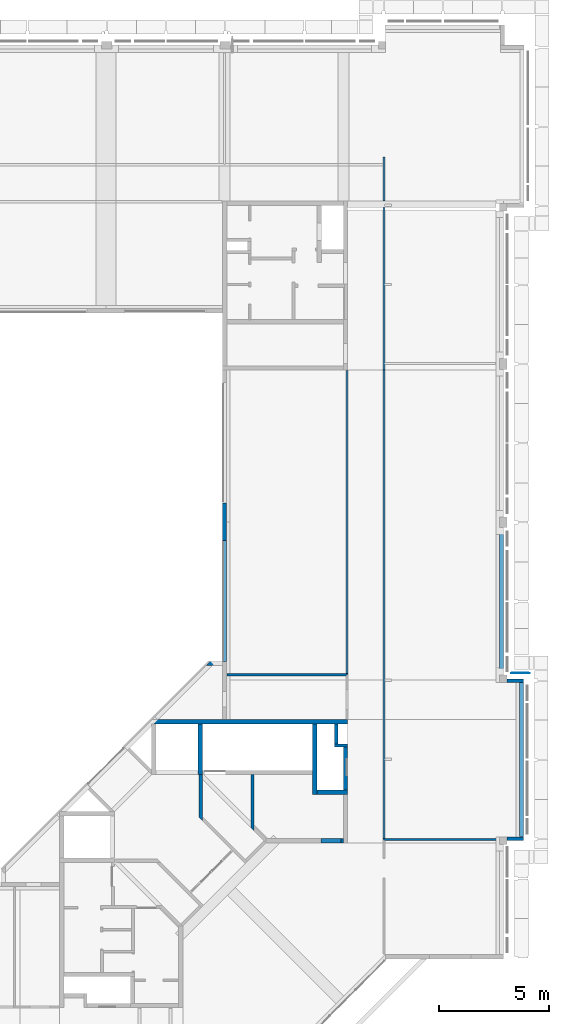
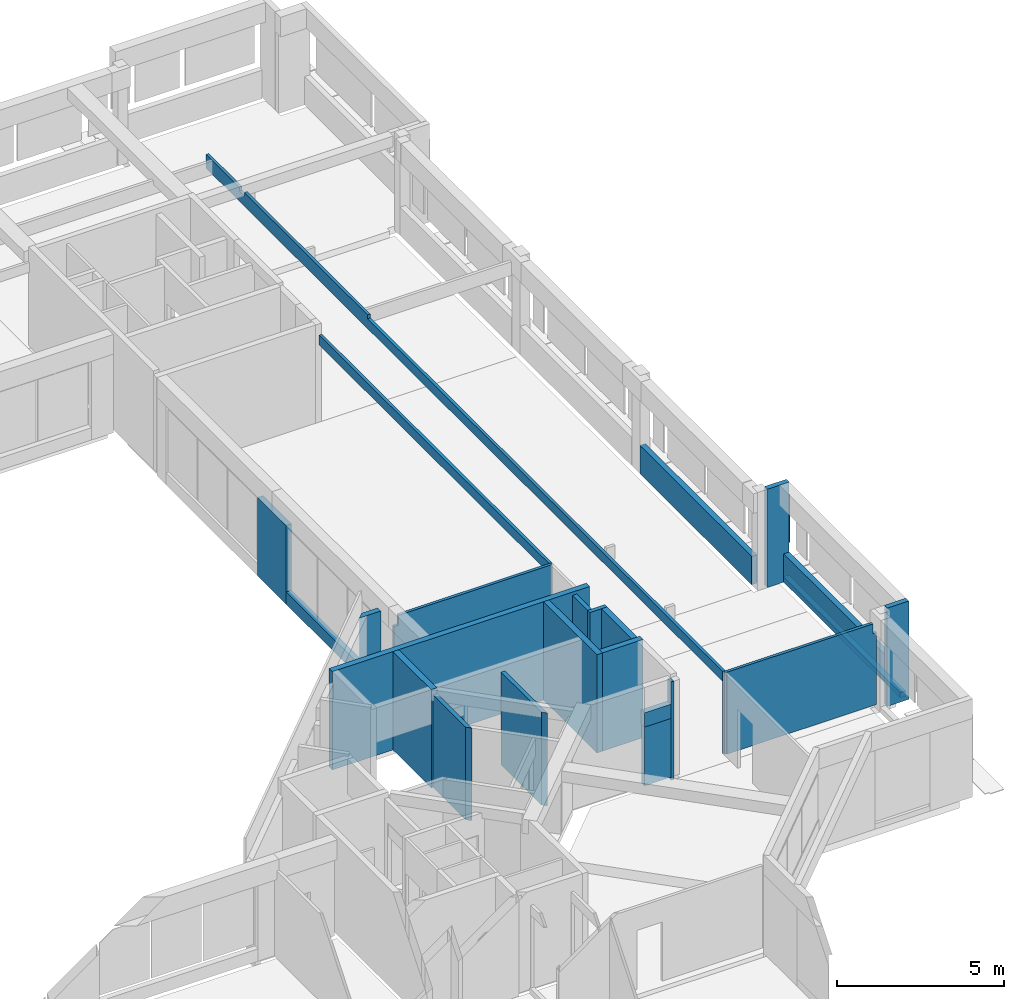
# One storey, part 15 of 26: 25 walls.
"""IFC4X3_ADD2 building model written with IfcOpenShell, lengths in millimetres."""

from ifc_helpers import new_model, si_unit, direction, frame, frame_2d, origin_with_axes, origin_2d_with_axis, place, context, subcontext, project, spatial, polyline, rectangle, outline, extrude, source, transform, mapped, material, type_object, type_shapes, element, save


model = new_model("IFC4X3_ADD2")

# Units and contexts
model_context = context("Model", 3, precision=1e-05, world=origin_with_axes(), true_north=direction((0.0, 1.0)))
body_context = subcontext(model_context, "Body", "Model", "MODEL_VIEW")
ifc_project = project(units=[si_unit("LENGTHUNIT", "METRE", prefix="MILLI"), si_unit("AREAUNIT", "SQUARE_METRE"), si_unit("VOLUMEUNIT", "CUBIC_METRE"), si_unit("PLANEANGLEUNIT", "RADIAN"), si_unit("TIMEUNIT", "SECOND"), si_unit("MASSUNIT", "GRAM")], contexts=[model_context])

# Site, building, storey
site_placement = place(None, origin_with_axes())
site = spatial("IfcSite", under=ifc_project, at=site_placement, Name="Site", CompositionType="ELEMENT")
building_placement = place(site_placement, origin_with_axes())
building = spatial("IfcBuilding", under=site, at=building_placement, Name="IFC Building Story")
storey_placement = place(building_placement, frame((0.0, 0.0, 7200.0), z_axis=(0.0, 0.0, 1.0), x_axis=(1.0, 0.0, 0.0)))
storey = spatial("IfcBuildingStorey", under=building, at=storey_placement, Name="020", Elevation=7200.0)

# Walls
ifc_material_1 = material(Name="BB_Beton_Bestaand")
wall_type_1 = type_object("IfcWallType", Name="BB_Beton_Bestaand 200", PredefinedType="NOTDEFINED", material=ifc_material_1)
wall_1_placement = place(storey_placement, origin_with_axes())
element("IfcWall", 1, at=wall_1_placement, inside=storey, type_object=wall_type_1, Name="Basic Wall:BB_XX_Wand uit beton, 200 mm", ObjectType="Basic Wall:BB_XX_Wand uit beton, 200 mm", PredefinedType="SOLIDWALL", context=body_context, shape_type="SweptSolid", body=[
    extrude(rectangle(XDim=8915.00000000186, YDim=200.0, at=origin_2d_with_axis()), frame((-11457.49999999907, 20000.0, -80.0), z_axis=(0.0, 0.0, 1.0), x_axis=(1.0, 0.0, 0.0)), (0.0, 0.0, 1.0), 3600.0),
])
wall_2_placement = place(storey_placement, origin_with_axes())
element("IfcWall", 2, at=wall_2_placement, inside=storey, type_object=wall_type_1, Name="Basic Wall:BB_XX_Wand uit beton, 200 mm", ObjectType="Basic Wall:BB_XX_Wand uit beton, 200 mm", PredefinedType="SOLIDWALL", context=body_context, shape_type="SweptSolid", body=[
    extrude(rectangle(XDim=3199.999999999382, YDim=200.0, at=frame_2d((0.0, 0.0), x_axis=(0.0, 1.0))), frame((-8500.0, 18300.00000000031, -80.0), z_axis=(0.0, 0.0, 1.0), x_axis=(1.0, 0.0, 0.0)), (0.0, 0.0, 1.0), 3600.0),
])
wall_3_placement = place(storey_placement, origin_with_axes())
element("IfcWall", 3, at=wall_3_placement, inside=storey, type_object=wall_type_1, Name="Basic Wall:BB_XX_Wand uit beton, 200 mm", ObjectType="Basic Wall:BB_XX_Wand uit beton, 200 mm", PredefinedType="SOLIDWALL", context=body_context, shape_type="SweptSolid", body=[
    extrude(rectangle(XDim=1399.999999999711, YDim=200.0, at=origin_2d_with_axis()), frame((-7700.000000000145, 16800.0, -80.0), z_axis=(0.0, 0.0, 1.0), x_axis=(1.0, 0.0, 0.0)), (0.0, 0.0, 1.0), 3600.0),
])
wall_4_placement = place(storey_placement, origin_with_axes())
element("IfcWall", 4, at=wall_4_placement, inside=storey, type_object=wall_type_1, Name="Basic Wall:BB_XX_Wand uit beton, 200 mm", ObjectType="Basic Wall:BB_XX_Wand uit beton, 200 mm", PredefinedType="SOLIDWALL", context=body_context, shape_type="SweptSolid", body=[
    extrude(rectangle(XDim=2299.999999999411, YDim=199.9999999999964, at=frame_2d((0.0, 0.0), x_axis=(0.0, 1.0))), frame((-13715.0, 18749.99999999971, -80.0), z_axis=(0.0, 0.0, 1.0), x_axis=(1.0, 0.0, 0.0)), (0.0, 0.0, 1.0), 3600.0),
])
wall_type_2 = type_object("IfcWallType", Name="BB_Beton_Bestaand 190", PredefinedType="NOTDEFINED", material=ifc_material_1)
wall_5_placement = place(storey_placement, origin_with_axes())
element("IfcWall", 5, at=wall_5_placement, inside=storey, type_object=wall_type_2, Name="Basic Wall:BB_XX_Wand uit beton, 190 mm", ObjectType="Basic Wall:BB_XX_Wand uit beton, 190 mm", PredefinedType="SOLIDWALL", context=body_context, shape_type="SweptSolid", body=[
    extrude(rectangle(XDim=7010.0000000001, YDim=190.0, at=frame_2d((0.0, 0.0), x_axis=(0.0, 1.0))), frame((900.0, 18299.99999999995, -200.0), z_axis=(0.0, 0.0, 1.0), x_axis=(1.0, 0.0, 0.0)), (0.0, 0.0, 1.0), 194.999999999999),
])
wall_6_placement = place(storey_placement, origin_with_axes())
element("IfcWall", 6, at=wall_6_placement, inside=storey, type_object=wall_type_2, Name="Basic Wall:BB_XX_Wand uit beton, 190 mm", ObjectType="Basic Wall:BB_XX_Wand uit beton, 190 mm", PredefinedType="SOLIDWALL", context=body_context, shape_type="SweptSolid", body=[
    extrude(rectangle(XDim=6709.999999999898, YDim=190.0, at=frame_2d((0.0, 0.0), x_axis=(0.0, 1.0))), frame((0.0, 25500.00000000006, -200.0), z_axis=(0.0, 0.0, 1.0), x_axis=(1.0, 0.0, 0.0)), (0.0, 0.0, 1.0), 1040.0),
])
wall_7_placement = place(storey_placement, origin_with_axes())
element("IfcWall", 7, at=wall_7_placement, inside=storey, type_object=wall_type_2, Name="Basic Wall:BB_XX_Wand uit beton, 190 mm", ObjectType="Basic Wall:BB_XX_Wand uit beton, 190 mm", PredefinedType="SOLIDWALL", context=body_context, shape_type="SweptSolid", body=[
    extrude(rectangle(XDim=1709.999999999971, YDim=190.0, at=frame_2d((0.0, 0.0), x_axis=(0.0, 1.0))), frame((-12600.0040658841, 29100.00000000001, -200.0), z_axis=(0.0, 0.0, 1.0), x_axis=(1.0, 0.0, 0.0)), (0.0, 0.0, 1.0), 2880.0),
])
wall_8_placement = place(storey_placement, origin_with_axes())
element("IfcWall", 8, at=wall_8_placement, inside=storey, type_object=wall_type_2, Name="Basic Wall:BB_XX_Wand uit beton, 190 mm", ObjectType="Basic Wall:BB_XX_Wand uit beton, 190 mm", PredefinedType="SOLIDWALL", context=body_context, shape_type="SweptSolid", body=[
    extrude(rectangle(XDim=5490.000000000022, YDim=190.0, at=frame_2d((0.0, 0.0), x_axis=(0.0, 1.0))), frame((-12600.0040658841, 25500.00000000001, -200.0), z_axis=(0.0, 0.0, 1.0), x_axis=(1.0, 0.0, 0.0)), (0.0, 0.0, 1.0), 449.999999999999),
])
wall_9_placement = place(storey_placement, origin_with_axes())
element("IfcWall", 9, at=wall_9_placement, inside=storey, type_object=wall_type_2, Name="Basic Wall:BB_XX_Wand uit beton, 190 mm", ObjectType="Basic Wall:BB_XX_Wand uit beton, 190 mm", PredefinedType="SOLIDWALL", context=body_context, shape_type="SweptSolid", body=[
    extrude(rectangle(XDim=7010.0000000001, YDim=190.0, at=frame_2d((0.0, 0.0), x_axis=(0.0, 1.0))), frame((900.0, 18299.99999999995, -200.0), z_axis=(0.0, 0.0, 1.0), x_axis=(1.0, 0.0, 0.0)), (0.0, 0.0, 1.0), 1040.0),
])
wall_type_3 = type_object("IfcWallType", Name="BB_Beton_Bestaand 170", PredefinedType="NOTDEFINED", material=ifc_material_1)
wall_10_placement = place(storey_placement, origin_with_axes())
element("IfcWall", 10, at=wall_10_placement, inside=storey, type_object=wall_type_3, Name="Basic Wall:BB_XX_Wand uit beton, 170 mm", ObjectType="Basic Wall:BB_XX_Wand uit beton, 170 mm", PredefinedType="SOLIDWALL", context=body_context, shape_type="SweptSolid", body=[
    extrude(rectangle(XDim=749.999999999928, YDim=170.0, at=origin_2d_with_axis()), frame((620.0000000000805, 14690.0, -200.0), z_axis=(0.0, 0.0, 1.0), x_axis=(1.0, 0.0, 0.0)), (0.0, 0.0, 1.0), 3600.0),
])
wall_11_placement = place(storey_placement, origin_with_axes())
element("IfcWall", 11, at=wall_11_placement, inside=storey, type_object=wall_type_3, Name="Basic Wall:BB_XX_Wand uit beton, 170 mm", ObjectType="Basic Wall:BB_XX_Wand uit beton, 170 mm", PredefinedType="SOLIDWALL", context=body_context, shape_type="SweptSolid", body=[
    extrude(rectangle(XDim=750.0000000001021, YDim=169.9999999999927, at=origin_2d_with_axis()), frame((620.0000000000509, 21870.0, -200.0), z_axis=(0.0, 0.0, 1.0), x_axis=(1.0, 0.0, 0.0)), (0.0, 0.0, 1.0), 3600.0),
])
ifc_material_2 = material(Name="BB_Metselwerk_Bestaand")
wall_type_4 = type_object("IfcWallType", Name="BB_Metselwerk_Bestaand 140", PredefinedType="NOTDEFINED", material=ifc_material_2)
wall_12_placement = place(storey_placement, origin_with_axes())
element("IfcWall", 12, at=wall_12_placement, inside=storey, type_object=wall_type_4, Name="Basic Wall:BB_XX_Wand uit metselwerk, 140 mm", ObjectType="Basic Wall:BB_XX_Wand uit metselwerk, 140 mm", PredefinedType="SOLIDWALL", context=body_context, shape_type="SweptSolid", body=[
    extrude(rectangle(XDim=589.9999999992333, YDim=140.0, at=origin_2d_with_axis()), frame((-7294.999999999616, 18930.0, -200.0), z_axis=(0.0, 0.0, 1.0), x_axis=(1.0, 0.0, 0.0)), (0.0, 0.0, 1.0), 3600.0),
])
wall_13_placement = place(storey_placement, origin_with_axes())
element("IfcWall", 13, at=wall_13_placement, inside=storey, type_object=wall_type_4, Name="Basic Wall:BB_XX_Wand uit metselwerk, 140 mm", ObjectType="Basic Wall:BB_XX_Wand uit metselwerk, 140 mm", PredefinedType="SOLIDWALL", context=body_context, shape_type="SweptSolid", body=[
    extrude(rectangle(XDim=899.9999999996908, YDim=140.0, at=frame_2d((0.0, 0.0), x_axis=(0.0, 1.0))), frame((-7520.0, 19449.99999999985, -200.0), z_axis=(0.0, 0.0, 1.0), x_axis=(1.0, 0.0, 0.0)), (0.0, 0.0, 1.0), 3600.0),
])
wall_14_placement = place(storey_placement, origin_with_axes())
element("IfcWall", 14, at=wall_14_placement, inside=storey, type_object=wall_type_4, Name="Basic Wall:BB_XX_Wand uit metselwerk, 140 mm", ObjectType="Basic Wall:BB_XX_Wand uit metselwerk, 140 mm", PredefinedType="SOLIDWALL", context=body_context, shape_type="SweptSolid", body=[
    extrude(outline(polyline([(70.00000000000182, 1243.002525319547), (69.99999999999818, -1313.002525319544), (-70.00000000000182, -1173.002525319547), (-69.99999999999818, 1243.002525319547), (70.00000000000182, 1243.002525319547)])), frame((-11330.0, 16356.99747467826, -80.0), z_axis=(0.0, 0.0, 1.0), x_axis=(1.0, 0.0, 0.0)), (0.0, 0.0, 1.0), 3400.0),
])
wall_type_5 = type_object("IfcWallType", Name="BB_Metselwerk_Bestaand 190", PredefinedType="NOTDEFINED", material=ifc_material_2)
wall_15_placement = place(storey_placement, origin_with_axes())
element("IfcWall", 15, at=wall_15_placement, inside=storey, type_object=wall_type_5, Name="Basic Wall:BB_XX_Wand uit metselwerk, 190 mm", ObjectType="Basic Wall:BB_XX_Wand uit metselwerk, 190 mm", PredefinedType="SOLIDWALL", context=body_context, shape_type="SweptSolid", body=[
    extrude(rectangle(XDim=1959.99999999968, YDim=190.0, at=frame_2d((0.0, 0.0), x_axis=(0.0, 1.0))), frame((-7095.0, 17879.99999999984, -200.0), z_axis=(0.0, 0.0, 1.0), x_axis=(1.0, 0.0, 0.0)), (0.0, 0.0, 1.0), 3600.0),
])
ifc_material_3 = material(Name="BB_Metselwerk_Betonsteen")
wall_type_6 = type_object("IfcWallType", Name="BB_Metselwerk_Betonsteen 190", PredefinedType="NOTDEFINED", material=ifc_material_3)
wall_16_placement = place(storey_placement, origin_with_axes())
element("IfcWall", 16, at=wall_16_placement, inside=storey, type_object=wall_type_6, Name="Basic Wall:BB_03.09.24#05_Wand uit metselwerk_EI60, 190 mm", ObjectType="Basic Wall:BB_03.09.24#05_Wand uit metselwerk_EI60, 190 mm", PredefinedType="SOLIDWALL", context=body_context, shape_type="SweptSolid", body=[
    extrude(rectangle(XDim=920.0, YDim=190.0, at=origin_2d_with_axis()), frame((-7760.0, 14595.0, -80.0), z_axis=(0.0, 0.0, 1.0), x_axis=(1.0, 0.0, 0.0)), (0.0, 0.0, 1.0), 2150.0),
])
wall_17_placement = place(storey_placement, origin_with_axes())
element("IfcWall", 17, at=wall_17_placement, inside=storey, type_object=wall_type_6, Name="Basic Wall:BB_03.09.24#03_Wand uit metselwerk, 190 mm", ObjectType="Basic Wall:BB_03.09.24#03_Wand uit metselwerk, 190 mm", PredefinedType="SOLIDWALL", context=body_context, shape_type="SweptSolid", body=[
    extrude(outline(polyline([(-229.8221358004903, 95.0), (324.8221358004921, 95.0), (324.8221358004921, -95.0), (-419.8221358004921, -95.0), (-229.8221358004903, 95.0)])), frame((-13019.82620168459, 22660.0, -200.0), z_axis=(0.0, 0.0, 1.0), x_axis=(1.0, 0.0, 0.0)), (0.0, 0.0, 1.0), 3200.0),
])
wall_type_7 = type_object("IfcWallType", Name="Basic Wall_BB_10.01.41#21_Gipskartonwand_EI60_43dB_MS100 _ 25.50.25_ 100 mm51", PredefinedType="NOTDEFINED")
shared_shape_1 = source(origin_with_axes(), body_context, "Body", "SweptSolid", [
    extrude(outline(polyline([(3625.002710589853, 2013.333333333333), (3625.002710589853, -1186.666666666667), (-1735.001355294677, -1186.666666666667), (-1735.001355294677, -826.6666666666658), (-1890.001355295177, -826.6666666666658), (-1890.001355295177, 2013.333333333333), (3625.002710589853, 2013.333333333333)])), frame((1890.001355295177, 37.49999999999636, 2013.333333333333), z_axis=(0.0, 1.0, 0.0), x_axis=(1.0, 0.0, 0.0)), (0.0, 0.0, 1.0), 12.5),
    extrude(outline(polyline([(-1885.83468862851, 2013.333333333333), (3616.66937725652, 2013.333333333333), (3616.66937725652, -1186.666666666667), (-1730.83468862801, -1186.666666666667), (-1730.83468862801, -826.6666666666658), (-1885.83468862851, -826.6666666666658), (-1885.83468862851, 2013.333333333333)])), frame((1885.83468862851, 25.0, 2013.333333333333), z_axis=(0.0, 1.0, 0.0), x_axis=(1.0, 0.0, 0.0)), (0.0, 0.0, 1.0), 12.5),
    extrude(outline(polyline([(-1878.33468862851, 2013.333333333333), (3611.66937725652, 2013.333333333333), (3611.66937725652, -1186.666666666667), (-1733.33468862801, -1186.666666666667), (-1733.33468862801, -826.6666666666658), (-1878.33468862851, -826.6666666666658), (-1878.33468862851, 2013.333333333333)])), frame((1878.33468862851, -25.0, 2013.333333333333), z_axis=(0.0, 1.0, 0.0), x_axis=(1.0, 0.0, 0.0)), (0.0, 0.0, 1.0), 49.99999999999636),
    extrude(outline(polyline([(-1865.001355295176, 2013.333333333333), (3575.002710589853, 2013.333333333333), (3575.002710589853, -1186.666666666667), (-1710.001355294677, -1186.666666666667), (-1710.001355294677, -826.6666666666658), (-1865.001355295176, -826.6666666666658), (-1865.001355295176, 2013.333333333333)])), frame((1865.001355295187, -37.5, 2013.333333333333), z_axis=(0.0, 1.0, 0.0), x_axis=(1.0, 0.0, 0.0)), (0.0, 0.0, 1.0), 12.5),
    extrude(outline(polyline([(-1860.83468862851, 2013.333333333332), (3566.66937725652, 2013.333333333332), (3566.66937725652, -1186.666666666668), (-1705.834688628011, -1186.666666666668), (-1705.834688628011, -826.6666666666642), (-1860.83468862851, -826.6666666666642), (-1860.83468862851, 2013.333333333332)])), frame((1860.834688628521, -50.0, 2013.333333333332), z_axis=(0.0, 1.0, 0.0), x_axis=(1.0, 0.0, 0.0)), (0.0, 0.0, 1.0), 12.49999999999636),
])
type_shapes(wall_type_7, [shared_shape_1])
wall_18_placement = place(storey_placement, frame((-12500.0040658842, 22150.0, -200.0), z_axis=(0.0, 0.0, 1.0), x_axis=(1.0, 0.0, 0.0)))
element("IfcWall", 18, at=wall_18_placement, inside=storey, type_object=wall_type_7, Name="Basic Wall:BB_10.01.41#21_Gipskartonwand_EI60_43dB_MS100 / 25.50.25, 100 mm", ObjectType="Basic Wall:BB_10.01.41#21_Gipskartonwand_EI60_43dB_MS100 / 25.50.25, 100 mm", PredefinedType="PARTITIONING", context=body_context, shape_type="MappedRepresentation", body=[
    mapped(shared_shape_1, transform((0.0, 0.0, 0.0))),
])
wall_type_8 = type_object("IfcWallType", Name="Basic Wall_BB_10.01.41#01_Gipskartonwand_MS100 _ 25.50.25_ 100 mm85", PredefinedType="NOTDEFINED")
shared_shape_2 = source(origin_with_axes(), body_context, "Body", "SweptSolid", [
    extrude(outline(polyline([(-21993.9999999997, -13.99999999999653), (-21993.9999999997, 346.0000000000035), (8996.000000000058, 346.0000000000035), (8996.000000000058, -154.0000000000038), (6995.99999999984, -154.0000000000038), (6995.99999999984, -23.99999999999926), (6695.99999999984, -23.99999999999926), (6695.99999999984, -154.0000000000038), (-694.0000000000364, -154.0000000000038), (-694.0000000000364, -13.99999999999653), (-21993.9999999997, -13.99999999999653)])), frame((21994.0, 37.4999999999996, 345.9999999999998), z_axis=(0.0, 1.0, 0.0), x_axis=(1.0, 0.0, 0.0)), (0.0, 0.0, 1.0), 12.5000000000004),
    extrude(outline(polyline([(-21993.9999999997, -13.99999999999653), (-21993.9999999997, 346.0000000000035), (8996.000000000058, 346.0000000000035), (8996.000000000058, -154.0000000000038), (6995.99999999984, -154.0000000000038), (6995.99999999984, -23.99999999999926), (6695.99999999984, -23.99999999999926), (6695.99999999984, -154.0000000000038), (-694.0000000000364, -154.0000000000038), (-694.0000000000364, -13.99999999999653), (-21993.9999999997, -13.99999999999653)])), frame((21994.0, 24.9999999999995, 345.9999999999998), z_axis=(0.0, 1.0, 0.0), x_axis=(1.0, 0.0, 0.0)), (0.0, 0.0, 1.0), 12.50000000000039),
    extrude(outline(polyline([(-21993.9999999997, -13.99999999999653), (-21993.9999999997, 346.0000000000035), (8996.000000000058, 346.0000000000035), (8996.000000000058, -154.0000000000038), (6995.99999999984, -154.0000000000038), (6995.99999999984, -23.99999999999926), (6695.99999999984, -23.99999999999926), (6695.99999999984, -154.0000000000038), (-694.0000000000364, -154.0000000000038), (-694.0000000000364, -13.99999999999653), (-21993.9999999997, -13.99999999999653)])), frame((21994.0, -24.9999999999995, 345.9999999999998), z_axis=(0.0, 1.0, 0.0), x_axis=(1.0, 0.0, 0.0)), (0.0, 0.0, 1.0), 49.9999999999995),
    extrude(outline(polyline([(-21993.9999999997, -13.99999999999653), (-21993.9999999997, 346.0000000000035), (8996.000000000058, 346.0000000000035), (8996.000000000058, -154.0000000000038), (6995.99999999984, -154.0000000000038), (6995.99999999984, -23.99999999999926), (6695.99999999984, -23.99999999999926), (6695.99999999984, -154.0000000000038), (-694.0000000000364, -154.0000000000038), (-694.0000000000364, -13.99999999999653), (-21993.9999999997, -13.99999999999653)])), frame((21994.00000000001, -37.5000000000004, 345.9999999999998), z_axis=(0.0, 1.0, 0.0), x_axis=(1.0, 0.0, 0.0)), (0.0, 0.0, 1.0), 12.5000000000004),
    extrude(outline(polyline([(-21993.9999999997, -13.99999999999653), (-21993.9999999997, 346.0000000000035), (8996.000000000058, 346.0000000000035), (8996.000000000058, -154.0000000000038), (6995.99999999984, -154.0000000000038), (6995.99999999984, -23.99999999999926), (6695.99999999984, -23.99999999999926), (6695.99999999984, -154.0000000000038), (-694.0000000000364, -154.0000000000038), (-694.0000000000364, -13.99999999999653), (-21993.9999999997, -13.99999999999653)])), frame((21994.00000000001, -49.99999999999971, 345.9999999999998), z_axis=(0.0, 1.0, 0.0), x_axis=(1.0, 0.0, 0.0)), (0.0, 0.0, 1.0), 12.49999999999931),
])
type_shapes(wall_type_8, [shared_shape_2])
wall_19_placement = place(storey_placement, frame((-5350.0, 14700.0, 2640.0), z_axis=(0.0, 0.0, 1.0), x_axis=(0.0, 1.0, 0.0)))
element("IfcWall", 19, at=wall_19_placement, inside=storey, type_object=wall_type_8, Name="Basic Wall:BB_10.01.41#01_Gipskartonwand_MS100 / 25.50.25, 100 mm", ObjectType="Basic Wall:BB_10.01.41#01_Gipskartonwand_MS100 / 25.50.25, 100 mm", PredefinedType="PARTITIONING", context=body_context, shape_type="MappedRepresentation", body=[
    mapped(shared_shape_2, transform((0.0, 0.0, 0.0))),
])
wall_type_9 = type_object("IfcWallType", Name="Basic Wall_BB_10.01.41#01_Gipskartonwand_MS100 _ 25.50.25_ 100 mm111", PredefinedType="NOTDEFINED")
shared_shape_3 = source(origin_with_axes(), body_context, "Body", "SweptSolid", [
    extrude(rectangle(XDim=13785.00000000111, YDim=12.49999999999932, at=origin_2d_with_axis()), frame((6892.500000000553, 43.7500000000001, 0.0), z_axis=(0.0, 0.0, 1.0), x_axis=(1.0, 0.0, 0.0)), (0.0, 0.0, 1.0), 360.0),
    extrude(rectangle(XDim=13785.0000000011, YDim=12.5000000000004, at=origin_2d_with_axis()), frame((6892.50000000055, 31.25000000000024, 0.0), z_axis=(0.0, 0.0, 1.0), x_axis=(1.0, 0.0, 0.0)), (0.0, 0.0, 1.0), 360.0),
    extrude(rectangle(XDim=13785.0000000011, YDim=49.9999999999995, at=origin_2d_with_axis()), frame((6892.50000000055, -1.072031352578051e-12, 0.0), z_axis=(0.0, 0.0, 1.0), x_axis=(1.0, 0.0, 0.0)), (0.0, 0.0, 1.0), 360.0),
    extrude(rectangle(XDim=13785.0000000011, YDim=12.50000000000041, at=origin_2d_with_axis()), frame((6892.50000000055, -31.24999999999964, 0.0), z_axis=(0.0, 0.0, 1.0), x_axis=(1.0, 0.0, 0.0)), (0.0, 0.0, 1.0), 360.0),
    extrude(rectangle(XDim=13785.0000000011, YDim=12.50000000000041, at=origin_2d_with_axis()), frame((6892.50000000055, -43.75000000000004, 0.0), z_axis=(0.0, 0.0, 1.0), x_axis=(1.0, 0.0, 0.0)), (0.0, 0.0, 1.0), 360.0),
])
type_shapes(wall_type_9, [shared_shape_3])
wall_20_placement = place(storey_placement, frame((-7035.0, 35985.0, 2640.0), z_axis=(0.0, 0.0, 1.0), x_axis=(0.0, -1.0, 0.0)))
element("IfcWall", 20, at=wall_20_placement, inside=storey, type_object=wall_type_9, Name="Basic Wall:BB_10.01.41#01_Gipskartonwand_MS100 / 25.50.25, 100 mm", ObjectType="Basic Wall:BB_10.01.41#01_Gipskartonwand_MS100 / 25.50.25, 100 mm", PredefinedType="PARTITIONING", context=body_context, shape_type="MappedRepresentation", body=[
    mapped(shared_shape_3, transform((0.0, 0.0, 0.0))),
])
wall_type_10 = type_object("IfcWallType", Name="Basic Wall_BB_10.01.41#03_Gipskartonwand_43dB_MS100 _ 25.50.25_ 100 mm63", PredefinedType="NOTDEFINED")
shared_shape_4 = source(origin_with_axes(), body_context, "Body", "SweptSolid", [
    extrude(outline(polyline([(-3475.000000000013, -1119.999999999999), (-3475.000000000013, 1880.0), (1805.000000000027, 1880.0), (1805.000000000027, -760.0000000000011), (1669.999999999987, -760.0000000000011), (1669.999999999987, -1119.999999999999), (-3475.000000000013, -1119.999999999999)])), frame((3475.000000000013, 37.49999999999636, 1880.0), z_axis=(0.0, 1.0, 0.0), x_axis=(1.0, 0.0, 0.0)), (0.0, 0.0, 1.0), 12.49999999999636),
    extrude(outline(polyline([(-3466.666666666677, 1880.0), (1800.833333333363, 1880.0), (1800.833333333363, -760.0000000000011), (1665.833333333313, -760.0000000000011), (1665.833333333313, -1119.999999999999), (-3466.666666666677, -1119.999999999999), (-3466.666666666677, 1880.0)])), frame((3479.166666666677, 25.0, 1880.0), z_axis=(0.0, 1.0, 0.0), x_axis=(1.0, 0.0, 0.0)), (0.0, 0.0, 1.0), 12.5),
    extrude(outline(polyline([(-3461.66666666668, 1880.0), (1793.33333333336, 1880.0), (1793.33333333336, -760.0000000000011), (1668.33333333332, -760.0000000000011), (1668.33333333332, -1119.999999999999), (-3461.66666666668, -1119.999999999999), (-3461.66666666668, 1880.0)])), frame((3486.66666666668, -25.0, 1880.0), z_axis=(0.0, 1.0, 0.0), x_axis=(1.0, 0.0, 0.0)), (0.0, 0.0, 1.0), 50.00000000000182),
    extrude(outline(polyline([(-3425.000000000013, 1880.0), (1780.000000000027, 1880.0), (1780.000000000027, -760.0000000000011), (1644.999999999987, -760.0000000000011), (1644.999999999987, -1119.999999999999), (-3425.000000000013, -1119.999999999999), (-3425.000000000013, 1880.0)])), frame((3500.000000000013, -37.50000000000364, 1880.0), z_axis=(0.0, 1.0, 0.0), x_axis=(1.0, 0.0, 0.0)), (0.0, 0.0, 1.0), 12.49999999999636),
    extrude(outline(polyline([(-3416.666666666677, 1880.0), (1775.833333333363, 1880.0), (1775.833333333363, -760.0000000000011), (1640.833333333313, -760.0000000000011), (1640.833333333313, -1119.999999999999), (-3416.666666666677, -1119.999999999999), (-3416.666666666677, 1880.0)])), frame((3504.166666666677, -50.0, 1880.0), z_axis=(0.0, 1.0, 0.0), x_axis=(1.0, 0.0, 0.0)), (0.0, 0.0, 1.0), 12.5),
])
type_shapes(wall_type_10, [shared_shape_4])
wall_21_placement = place(storey_placement, frame((-5400.0, 14650.0, 0.0), z_axis=(0.0, 0.0, 1.0), x_axis=(1.0, 0.0, 0.0)))
element("IfcWall", 21, at=wall_21_placement, inside=storey, type_object=wall_type_10, Name="Basic Wall:BB_10.01.41#03_Gipskartonwand_43dB_MS100 / 25.50.25, 100 mm", ObjectType="Basic Wall:BB_10.01.41#03_Gipskartonwand_43dB_MS100 / 25.50.25, 100 mm", PredefinedType="PARTITIONING", context=body_context, shape_type="MappedRepresentation", body=[
    mapped(shared_shape_4, transform((0.0, 0.0, 0.0))),
])
wall_type_11 = type_object("IfcWallType", Name="BB_Metselwerk_Bestaand 200", PredefinedType="NOTDEFINED", material=ifc_material_2)
wall_22_placement = place(storey_placement, origin_with_axes())
element("IfcWall", 22, at=wall_22_placement, inside=storey, type_object=wall_type_11, Name="Basic Wall:BB_XX_Wand uit metselwerk, 200 mm", ObjectType="Basic Wall:BB_XX_Wand uit metselwerk, 200 mm", PredefinedType="SOLIDWALL", context=body_context, shape_type="SweptSolid", body=[
    extrude(rectangle(XDim=920.0, YDim=199.9999999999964, at=origin_2d_with_axis()), frame((-7760.0, 14600.0, 2070.0), z_axis=(0.0, 0.0, 1.0), x_axis=(1.0, 0.0, 0.0)), (0.0, 0.0, 1.0), 519.999999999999),
])
wall_type_12 = type_object("IfcWallType", Name="BB_Metselwerk_Betonsteen 140", PredefinedType="NOTDEFINED", material=ifc_material_3)
wall_23_placement = place(storey_placement, origin_with_axes())
element("IfcWall", 23, at=wall_23_placement, inside=storey, type_object=wall_type_12, Name="Basic Wall:BB_03.09.24#02_Wand uit metselwerk_EI60_43dB, 140 mm", ObjectType="Basic Wall:BB_03.09.24#02_Wand uit metselwerk_EI60_43dB, 140 mm", PredefinedType="SOLIDWALL", context=body_context, shape_type="SweptSolid", body=[
    extrude(outline(polyline([(-70.0, -939.9769132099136), (-70.00000000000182, 1009.976913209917), (70.0, 1009.976913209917), (70.0, -1079.976913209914), (-70.0, -939.9769132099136)])), frame((-13685.0, 16590.02308679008, -80.0), z_axis=(0.0, 0.0, 1.0), x_axis=(1.0, 0.0, 0.0)), (0.0, 0.0, 1.0), 3390.0),
])
wall_type_13 = type_object("IfcWallType", Name="BB_Beton_Bestaand 100", PredefinedType="NOTDEFINED", material=ifc_material_1)
wall_24_placement = place(storey_placement, origin_with_axes())
element("IfcWall", 24, at=wall_24_placement, inside=storey, type_object=wall_type_13, Name="Basic Wall:BB_XX_Wand uit beton, 200 mm", ObjectType="Basic Wall:BB_XX_Wand uit beton, 200 mm", PredefinedType="SOLIDWALL", context=body_context, shape_type="SweptSolid", body=[
    extrude(rectangle(XDim=199.9999999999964, YDim=99.99999999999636, at=frame_2d((0.0, 0.0), x_axis=(0.0, 1.0))), frame((-7249.999999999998, 14600.0, -200.0), z_axis=(0.0, 0.0, 1.0), x_axis=(1.0, 0.0, 0.0)), (0.0, 0.0, 1.0), 3600.0),
])
ifc_material_4 = material(Name="BB_Metaal_Aluminium_Puntprofiel")
wall_type_14 = type_object("IfcWallType", Name="BB_Metaal_Aluminium_Puntprofiel 1", PredefinedType="NOTDEFINED", material=ifc_material_4)
wall_25_placement = place(storey_placement, origin_with_axes())
element("IfcWall", 25, at=wall_25_placement, inside=storey, type_object=wall_type_14, Name="BB_07.10_Gevelbekleding_PuntProfiel, 810 mm, vol_GMO:810 x 1780 mm", ObjectType="BB_07.10_Gevelbekleding_PuntProfiel, 810 mm, vol_GMO:810 x 1780 mm", PredefinedType="NOTDEFINED", context=body_context, shape_type="SweptSolid", body=[
    extrude(outline(polyline([(-326.0000000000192, -9.9874496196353), (-304.0000000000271, -9.9874496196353), (-270.0000000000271, 24.01255038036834), (-236.0000000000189, -9.9874496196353), (-214.0000000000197, -9.9874496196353), (-180.0000000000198, 24.01255038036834), (-146.0000000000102, -9.987449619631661), (-124.0000000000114, -9.987449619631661), (-90.00000000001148, 24.01255038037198), (-56.0, -9.987449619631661), (-34.00000000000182, -9.987449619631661), (-1.932676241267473e-12, 24.01255038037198), (34.00000000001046, -9.987449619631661), (56.00000000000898, -9.987449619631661), (90.0000000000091, 24.01255038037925), (124.0000000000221, -9.987449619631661), (146.000000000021, -9.987449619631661), (180.0000000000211, 24.01255038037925), (214.000000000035, -9.987449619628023), (236.0000000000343, -9.987449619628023), (270.0000000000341, 24.01255038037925), (304.0000000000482, -9.987449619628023), (326.0000000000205, -9.987449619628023), (360.0000000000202, 24.01255038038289), (394.0000000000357, -9.987449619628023), (415.9999999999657, -9.987449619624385), (416.414213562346, -10.98744961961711), (393.5857864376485, -10.98744961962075), (360.0000000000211, 22.59833681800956), (326.4142135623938, -10.98744961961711), (303.5857864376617, -10.98744961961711), (270.0000000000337, 22.59833681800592), (236.4142135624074, -10.98744961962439), (213.5857864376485, -10.98744961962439), (180.0000000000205, 22.59833681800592), (146.4142135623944, -10.98744961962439), (123.5857864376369, -10.98744961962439), (90.0000000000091, 22.59833681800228), (56.41421356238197, -10.98744961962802), (33.58578643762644, -10.98744961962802), (-1.932676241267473e-12, 22.59833681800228), (-33.58578643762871, -10.98744961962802), (-56.41421356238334, -10.98744961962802), (-90.0000000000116, 22.59833681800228), (-123.5857864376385, -10.98744961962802), (-146.414213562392, -10.98744961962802), (-180.0000000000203, 22.59833681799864), (-213.5857864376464, -10.98744961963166), (-236.414213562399, -10.98744961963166), (-270.0000000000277, 22.59833681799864), (-303.5857864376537, -10.98744961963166), (-326.4142135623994, -10.98744961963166), (-360.0000000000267, 22.59833681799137), (-393.5857864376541, -10.9874496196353), (-416.414213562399, -10.9874496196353), (-416.0000000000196, -9.987449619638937), (-394.0000000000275, -9.9874496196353), (-360.0000000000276, 24.0125503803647), (-326.0000000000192, -9.9874496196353)])), frame((855.0000000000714, 22215.98744961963, 840.0), z_axis=(0.0, 0.0, 1.0), x_axis=(1.0, 0.0, 0.0)), (0.0, 0.0, 1.0), 1780.0),
])

save(model, "model.ifc")
